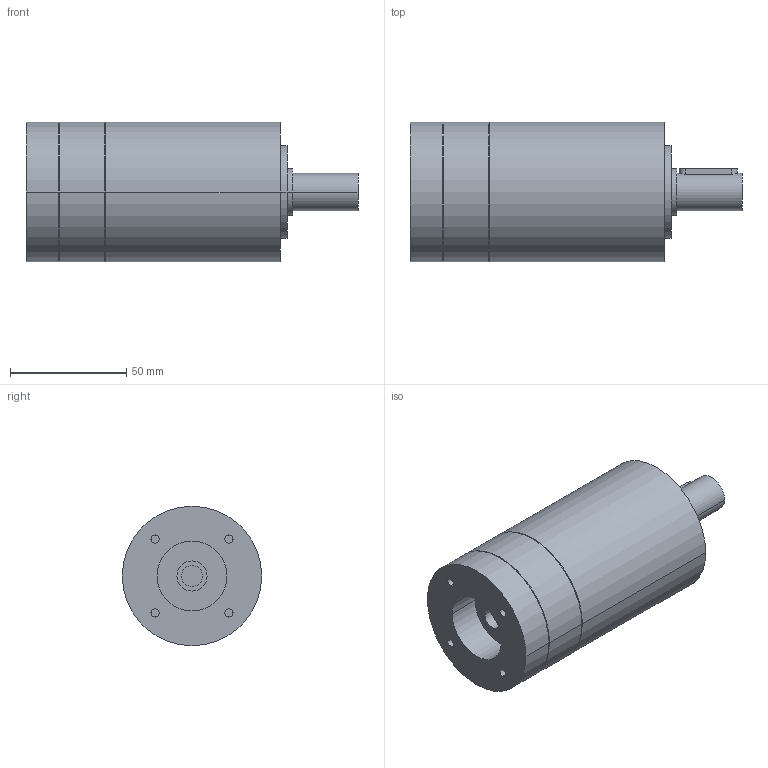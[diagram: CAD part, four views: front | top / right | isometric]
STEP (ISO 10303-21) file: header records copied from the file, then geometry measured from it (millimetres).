
FILE_DESCRIPTION(('CoCreate Modeling STEP Export'),'2;1');
FILE_NAME('GPR75_ig-9-12-16-20-24-30-36_16_B14_9_P16.stp','2014-08-25T16:07:24',(''),(''),'CoCreate Modeling STEP processor for AP214 (Solid Model)','CoCreate Modeling 16.00C 25-Feb-2009 (C) Parametric Technology GmbH','');
FILE_SCHEMA(('AUTOMOTIVE_DESIGN { 1 0 10303 214 1 1 1 1 }'));
Length unit declared in the file: millimetre
Products named in the file (2): GPR75_ig-9-12-16-20-24-30-36_16_B14_9_P16
Assembly tree (1 placements, depth 2):
  GPR75_ig-9-12-16-20-24-30-36_16_B14_9_P16
    GPR75_ig-9-12-16-20-24-30-36_16_B14_9_P16
Bounding box: 142.9 x 60 x 60 mm (x, y, z)
Volume: 307433.3 mm3; surface area: 32236.4 mm2
Topology: 1 solids, 1 shells, 77 faces, 197 edges, 141 vertices
Faces by surface type: cylinder 46, plane 25, cone 6
Entity records: 1971 total; most frequent: ORIENTED_EDGE 390, CARTESIAN_POINT 361, DIRECTION 254, EDGE_CURVE 195, VERTEX_POINT 141, AXIS2_PLACEMENT_3D 98, EDGE_LOOP 98, FACE_OUTER_BOUND 77
